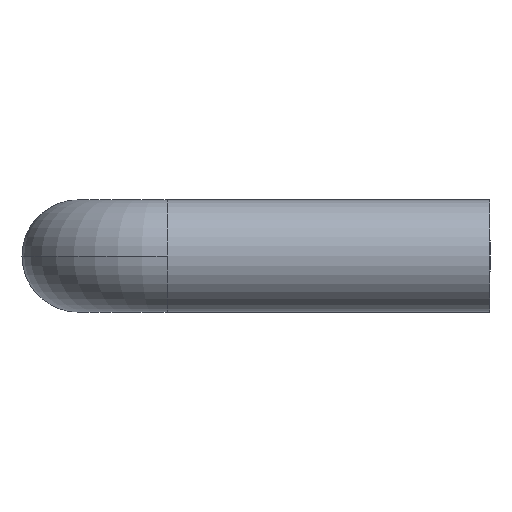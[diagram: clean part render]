
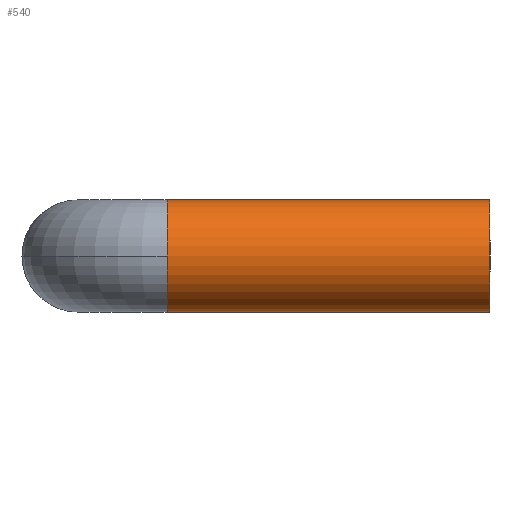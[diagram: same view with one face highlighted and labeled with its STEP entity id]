
A CAD part, left-side view. The second image highlights one B-rep face of the part: STEP entity #540.
In plain terms, the highlighted cylindrical face has radius 6 mm (diameter 12 mm), a partial arc.
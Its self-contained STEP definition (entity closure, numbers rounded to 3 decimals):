
#40 = EDGE_CURVE ( 'NONE', #524, #86, #248, .T. ) ;
#41 = EDGE_CURVE ( 'NONE', #161, #159, #244, .T. ) ;
#48 = EDGE_CURVE ( 'NONE', #95, #161, #237, .T. ) ;
#52 = EDGE_CURVE ( 'NONE', #86, #159, #264, .T. ) ;
#68 = EDGE_CURVE ( 'NONE', #95, #524, #436, .T. ) ;
#79 = AXIS2_PLACEMENT_3D ( 'NONE', #112, #101, #102 ) ;
#80 = AXIS2_PLACEMENT_3D ( 'NONE', #99, #140, #148 ) ;
#86 = VERTEX_POINT ( 'NONE', #322 ) ;
#95 = VERTEX_POINT ( 'NONE', #340 ) ;
#97 = EDGE_LOOP ( 'NONE', ( #207, #208, #209, #210, #211 ) ) ;
#99 = CARTESIAN_POINT ( 'NONE',  ( -144., -44., 0. ) ) ;
#101 = DIRECTION ( 'NONE',  ( 0., 1., 0. ) ) ;
#102 = DIRECTION ( 'NONE',  ( -1., 0., 0. ) ) ;
#112 = CARTESIAN_POINT ( 'NONE',  ( -144., -9.5, 0. ) ) ;
#126 = CARTESIAN_POINT ( 'NONE',  ( -144., -9.5, -6. ) ) ;
#137 = DIRECTION ( 'NONE',  ( 0., -1., 0. ) ) ;
#140 = DIRECTION ( 'NONE',  ( 0., 1., 0. ) ) ;
#148 = DIRECTION ( 'NONE',  ( -1., 0., 0. ) ) ;
#159 = VERTEX_POINT ( 'NONE', #345 ) ;
#161 = VERTEX_POINT ( 'NONE', #347 ) ;
#207 = ORIENTED_EDGE ( 'NONE', *, *, #52, .F. ) ;
#208 = ORIENTED_EDGE ( 'NONE', *, *, #40, .F. ) ;
#209 = ORIENTED_EDGE ( 'NONE', *, *, #68, .F. ) ;
#210 = ORIENTED_EDGE ( 'NONE', *, *, #48, .T. ) ;
#211 = ORIENTED_EDGE ( 'NONE', *, *, #41, .T. ) ;
#237 = LINE ( 'NONE', #126, #254 ) ;
#244 = CIRCLE ( 'NONE', #80, 6. ) ;
#248 = CIRCLE ( 'NONE', #79, 6. ) ;
#254 = VECTOR ( 'NONE', #137, 1000. ) ;
#264 = LINE ( 'NONE', #277, #265 ) ;
#265 = VECTOR ( 'NONE', #278, 1000. ) ;
#277 = CARTESIAN_POINT ( 'NONE',  ( -144., -9.5, 6. ) ) ;
#278 = DIRECTION ( 'NONE',  ( 0., -1., 0. ) ) ;
#322 = CARTESIAN_POINT ( 'NONE',  ( -144., -9.5, 6. ) ) ;
#324 = CARTESIAN_POINT ( 'NONE',  ( -144., -9.5, 0. ) ) ;
#325 = DIRECTION ( 'NONE',  ( 0., 1., 0. ) ) ;
#326 = DIRECTION ( 'NONE',  ( -1., 0., 0. ) ) ;
#340 = CARTESIAN_POINT ( 'NONE',  ( -144., -9.5, -6. ) ) ;
#345 = CARTESIAN_POINT ( 'NONE',  ( -144., -44., 6. ) ) ;
#347 = CARTESIAN_POINT ( 'NONE',  ( -144., -44., -6. ) ) ;
#353 = CARTESIAN_POINT ( 'NONE',  ( -150., -9.5, 0. ) ) ;
#389 = DIRECTION ( 'NONE',  ( 0., -1., 0. ) ) ;
#395 = DIRECTION ( 'NONE',  ( 0., 0., -1. ) ) ;
#397 = CARTESIAN_POINT ( 'NONE',  ( -144., -9.5, 0. ) ) ;
#436 = CIRCLE ( 'NONE', #492, 6. ) ;
#462 = FACE_OUTER_BOUND ( 'NONE', #97, .T. ) ;
#467 = CYLINDRICAL_SURFACE ( 'NONE', #509, 6. ) ;
#492 = AXIS2_PLACEMENT_3D ( 'NONE', #324, #325, #326 ) ;
#509 = AXIS2_PLACEMENT_3D ( 'NONE', #397, #389, #395 ) ;
#524 = VERTEX_POINT ( 'NONE', #353 ) ;
#540 = ADVANCED_FACE ( 'NONE', ( #462 ), #467, .T. ) ;
